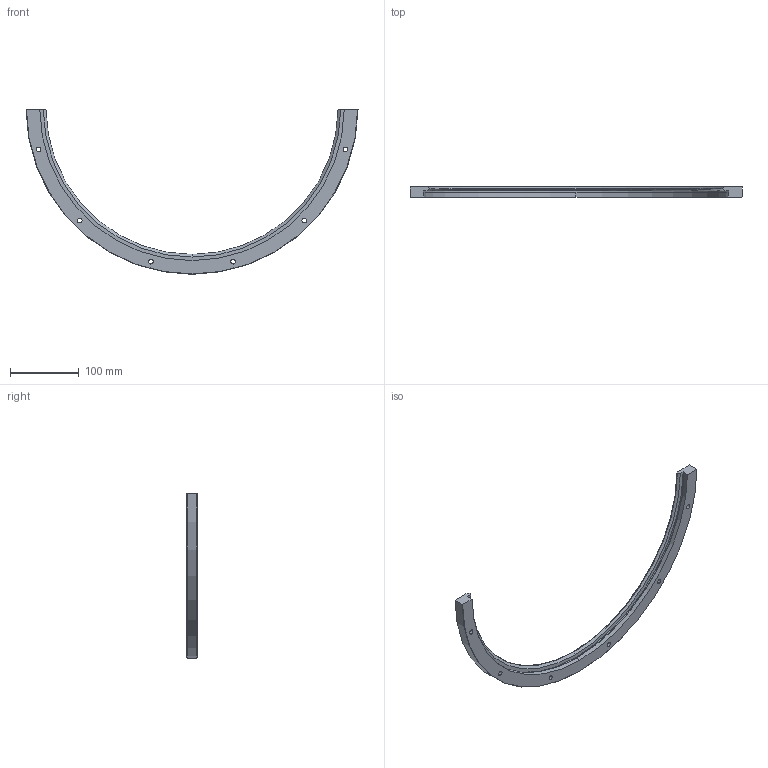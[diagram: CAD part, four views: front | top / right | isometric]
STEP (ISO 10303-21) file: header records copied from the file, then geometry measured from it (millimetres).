
FILE_DESCRIPTION(('STEP AP203'),'1');
FILE_NAME('rim_482_r180.stp','2021-08-30T05:59:47',('TraceParts'),('TraceParts S.A.'),'Spatial InterOp 3D',' ',' ');
FILE_SCHEMA(('CONFIG_CONTROL_DESIGN'));
Length unit declared in the file: millimetre
Products named in the file (1): 1
Bounding box: 482.48 x 15.5 x 239.25 mm (x, y, z)
Volume: 246582.1 mm3; surface area: 63866.8 mm2
Topology: 1 solids, 1 shells, 54 faces, 133 edges, 87 vertices
Faces by surface type: cylinder 30, plane 12, cone 8, torus 4
Entity records: 1721 total; most frequent: CARTESIAN_POINT 319, DIRECTION 307, ORIENTED_EDGE 266, EDGE_CURVE 133, AXIS2_PLACEMENT_3D 131, VERTEX_POINT 87, CIRCLE 76, EDGE_LOOP 72
